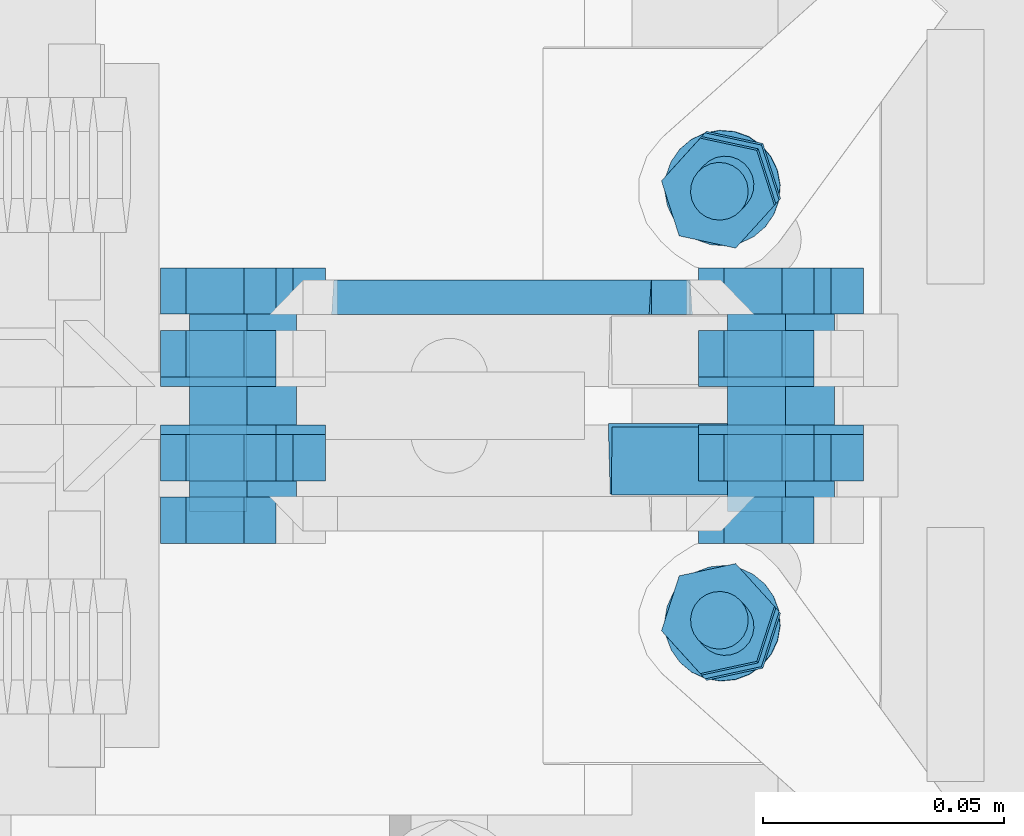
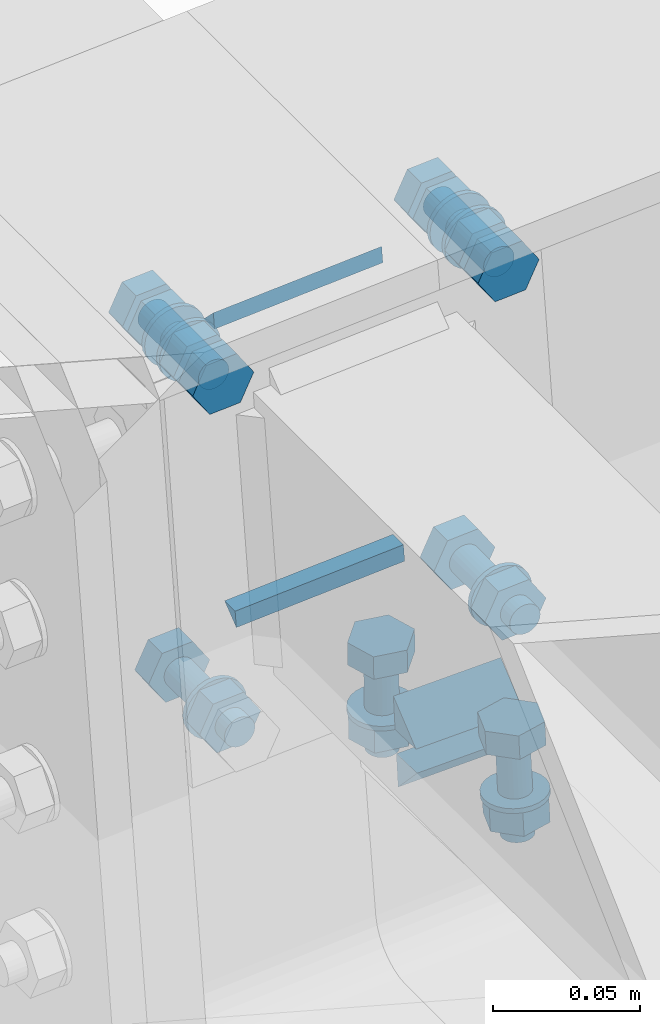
# One storey, part 57 of 72: 32 mechanical fasteners, 6 fasteners.
"""IFC4 building model written with IfcOpenShell, lengths in metres."""

from ifc_helpers import new_model, si_unit, frame, origin_with_axes, place, context, project, spatial, polyline, outline, extrude, type_object, element, save


model = new_model("IFC4")

# Units and contexts
model_context = context("Model", 3, precision=1e-05, world=origin_with_axes())
ifc_project = project(units=[si_unit("LENGTHUNIT", "METRE"), si_unit("AREAUNIT", "SQUARE_METRE"), si_unit("VOLUMEUNIT", "CUBIC_METRE"), si_unit("MASSUNIT", "GRAM", prefix="KILO"), si_unit("TIMEUNIT", "SECOND"), si_unit("PLANEANGLEUNIT", "RADIAN"), si_unit("SOLIDANGLEUNIT", "STERADIAN"), si_unit("THERMODYNAMICTEMPERATUREUNIT", "DEGREE_CELSIUS")], contexts=[model_context])

# Site, building, storey
placement_1 = place(None, origin_with_axes())
site = spatial("IfcSite", under=ifc_project, at=placement_1, Name="Italia", CompositionType="ELEMENT")
building = spatial("IfcBuilding", under=site, at=placement_1, Name="Pensilina", CompositionType="ELEMENT")
storey = spatial("IfcBuildingStorey", under=building, at=placement_1, Name="Storey 0", CompositionType="ELEMENT", Elevation=0.0)

# Mechanical fasteners
mechanical_fastener_type_1 = type_object("IfcMechanicalFastenerType", Name="Collegamento 0204_0203", PredefinedType="BOLT")
placement_2 = place(placement_1, origin_with_axes())
mechanical_fastener_1_placement = place(placement_2, origin_with_axes())
element("IfcMechanicalFastener", 1, at=mechanical_fastener_1_placement, inside=storey, type_object=mechanical_fastener_type_1, Name="Collegamento 0204_0203", NominalDiameter=0.0119999, context=model_context, shape_type="SweptSolid", body=[
    extrude(outline(polyline([(0.0, 0.0, 0.0), (-0.0119728, -0.000807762, 0.0), (-0.0186588, 0.00915694, 0.0), (-0.0133719, 0.0199296, 0.0), (-0.00139916, 0.0207374, 0.0), (0.00528681, 0.0107727, 0.0), (0.0, 0.0, 0.0)])), frame((0.966746, 15.821, 3.75867), z_axis=(0.0, -1.0, 0.0), x_axis=(1.0, 0.0, 0.0)), (0.0, 0.0, 1.0), 0.00959969),
])
mechanical_fastener_type_2 = type_object("IfcMechanicalFastenerType", Name="Collegamento 0204_0203", PredefinedType="BOLT")
mechanical_fastener_2_placement = place(placement_2, origin_with_axes())
element("IfcMechanicalFastener", 2, at=mechanical_fastener_2_placement, inside=storey, type_object=mechanical_fastener_type_2, Name="Collegamento 0204_0203", NominalDiameter=0.012, context=model_context, shape_type="SweptSolid", body=[
    extrude(outline(polyline([(0.0, 0.0, 0.0), (-0.000204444, -0.00155282, 0.0), (-0.000803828, -0.00300002, 0.0), (-0.00175732, -0.00424266, 0.0), (-0.00299996, -0.00519609, 0.0), (-0.00444704, -0.00579548, 0.0), (-0.00599998, -0.00600004, 0.0), (-0.00755292, -0.00579548, 0.0), (-0.009, -0.00519609, 0.0), (-0.0102426, -0.00424266, 0.0), (-0.0111961, -0.00300002, 0.0), (-0.0117955, -0.00155282, 0.0), (-0.012, 0.0, 0.0), (-0.0117955, 0.00155282, 0.0), (-0.0111961, 0.00300002, 0.0), (-0.0102426, 0.00424266, 0.0), (-0.009, 0.00519609, 0.0), (-0.00755292, 0.00579548, 0.0), (-0.00599998, 0.00600004, 0.0), (-0.00444704, 0.00579548, 0.0), (-0.00299996, 0.00519609, 0.0), (-0.00175732, 0.00424266, 0.0), (-0.000803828, 0.00300002, 0.0), (-0.000204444, 0.00155282, 0.0), (0.0, 0.0, 0.0)])), frame((0.96606, 15.862, 3.76864), z_axis=(0.0, -1.0, 0.0), x_axis=(1.0, 0.0, 0.0)), (0.0, 0.0, 1.0), 0.0410004),
])
mechanical_fastener_type_3 = type_object("IfcMechanicalFastenerType", Name="Collegamento 0204_0203", PredefinedType="BOLT")
mechanical_fastener_3_placement = place(placement_2, origin_with_axes())
element("IfcMechanicalFastener", 3, at=mechanical_fastener_3_placement, inside=storey, type_object=mechanical_fastener_type_3, Name="Collegamento 0204_0203", NominalDiameter=0.0119999, context=model_context, shape_type="SweptSolid", body=[
    extrude(outline(polyline([(0.0, 0.0, 0.0), (-0.0119728, -0.000807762, 0.0), (-0.0186588, 0.00915694, 0.0), (-0.0133719, 0.0199296, 0.0), (-0.00139916, 0.0207374, 0.0), (0.00528681, 0.0107727, 0.0), (0.0, 0.0, 0.0)])), frame((0.966746, 15.8556, 3.75867), z_axis=(0.0, -1.0, 0.0), x_axis=(1.0, 0.0, 0.0)), (0.0, 0.0, 1.0), 0.00959969),
])
mechanical_fastener_type_4 = type_object("IfcMechanicalFastenerType", Name="Collegamento 0204_0203", PredefinedType="BOLT")
mechanical_fastener_4_placement = place(placement_2, origin_with_axes())
element("IfcMechanicalFastener", 4, at=mechanical_fastener_4_placement, inside=storey, type_object=mechanical_fastener_type_4, Name="Collegamento 0204_0203", NominalDiameter=0.024, context=model_context, shape_type="SweptSolid", body=[
    extrude(outline(polyline([(0.0, 0.0, 0.0), (-0.000408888, -0.00310588, 0.0), (-0.00160772, -0.00600004, 0.0), (-0.00351477, -0.00848532, 0.0), (-0.00600004, -0.0103922, 0.0), (-0.00889421, -0.0115912, 0.0), (-0.012, -0.0120001, 0.0), (-0.0151058, -0.0115912, 0.0), (-0.018, -0.0103922, 0.0), (-0.0204853, -0.00848532, 0.0), (-0.0223923, -0.00600004, 0.0), (-0.0235912, -0.00310588, 0.0), (-0.024, 0.0, 0.0), (-0.0235912, 0.00310588, 0.0), (-0.0223923, 0.00600004, 0.0), (-0.0204853, 0.00848532, 0.0), (-0.018, 0.0103922, 0.0), (-0.0151058, 0.0115912, 0.0), (-0.012, 0.0120001, 0.0), (-0.00889421, 0.0115912, 0.0), (-0.00600004, 0.0103922, 0.0), (-0.00351477, 0.00848532, 0.0), (-0.00160772, 0.00600004, 0.0), (-0.000408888, 0.00310588, 0.0), (0.0, 0.0, 0.0)])), frame((0.97206, 15.846, 3.76864), z_axis=(0.0, -1.0, 0.0), x_axis=(1.0, 0.0, 0.0)), (0.0, 0.0, 1.0), 0.00199986),
])
mechanical_fastener_type_5 = type_object("IfcMechanicalFastenerType", Name="Collegamento 0204_0203", PredefinedType="BOLT")
mechanical_fastener_5_placement = place(placement_2, origin_with_axes())
element("IfcMechanicalFastener", 5, at=mechanical_fastener_5_placement, inside=storey, type_object=mechanical_fastener_type_5, Name="Collegamento 0204_0203", NominalDiameter=0.0119999, context=model_context, shape_type="SweptSolid", body=[
    extrude(outline(polyline([(0.0, 0.0, 0.0), (-0.0119728, -0.000807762, 0.0), (-0.0186589, 0.00915694, 0.0), (-0.0133721, 0.0199296, 0.0), (-0.00139928, 0.0207374, 0.0), (0.00528669, 0.0107727, 0.0), (0.0, 0.0, 0.0)])), frame((1.07849, 15.821, 3.76621), z_axis=(0.0, -1.0, 0.0), x_axis=(1.0, 0.0, 0.0)), (0.0, 0.0, 1.0), 0.00959969),
])
mechanical_fastener_type_6 = type_object("IfcMechanicalFastenerType", Name="Collegamento 0204_0203", PredefinedType="BOLT")
mechanical_fastener_6_placement = place(placement_2, origin_with_axes())
element("IfcMechanicalFastener", 6, at=mechanical_fastener_6_placement, inside=storey, type_object=mechanical_fastener_type_6, Name="Collegamento 0204_0203", NominalDiameter=0.012, context=model_context, shape_type="SweptSolid", body=[
    extrude(outline(polyline([(0.0, 0.0, 0.0), (-0.000204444, -0.00155282, 0.0), (-0.000803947, -0.00300002, 0.0), (-0.00175738, -0.00424266, 0.0), (-0.00300002, -0.00519609, 0.0), (-0.0044471, -0.00579548, 0.0), (-0.00600004, -0.00600004, 0.0), (-0.00755298, -0.00579548, 0.0), (-0.00900006, -0.00519609, 0.0), (-0.0102427, -0.00424266, 0.0), (-0.0111961, -0.00300002, 0.0), (-0.0117956, -0.00155282, 0.0), (-0.0120001, 0.0, 0.0), (-0.0117956, 0.00155282, 0.0), (-0.0111961, 0.00300002, 0.0), (-0.0102427, 0.00424266, 0.0), (-0.00900006, 0.00519609, 0.0), (-0.00755298, 0.00579548, 0.0), (-0.00600004, 0.00600004, 0.0), (-0.0044471, 0.00579548, 0.0), (-0.00300002, 0.00519609, 0.0), (-0.00175738, 0.00424266, 0.0), (-0.000803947, 0.00300002, 0.0), (-0.000204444, 0.00155282, 0.0), (0.0, 0.0, 0.0)])), frame((1.07781, 15.862, 3.77618), z_axis=(0.0, -1.0, 0.0), x_axis=(1.0, 0.0, 0.0)), (0.0, 0.0, 1.0), 0.0410004),
])
mechanical_fastener_type_7 = type_object("IfcMechanicalFastenerType", Name="Collegamento 0204_0203", PredefinedType="BOLT")
mechanical_fastener_7_placement = place(placement_2, origin_with_axes())
element("IfcMechanicalFastener", 7, at=mechanical_fastener_7_placement, inside=storey, type_object=mechanical_fastener_type_7, Name="Collegamento 0204_0203", NominalDiameter=0.0119999, context=model_context, shape_type="SweptSolid", body=[
    extrude(outline(polyline([(0.0, 0.0, 0.0), (-0.0119728, -0.000807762, 0.0), (-0.0186589, 0.00915694, 0.0), (-0.0133721, 0.0199296, 0.0), (-0.00139928, 0.0207374, 0.0), (0.00528669, 0.0107727, 0.0), (0.0, 0.0, 0.0)])), frame((1.07849, 15.8556, 3.76621), z_axis=(0.0, -1.0, 0.0), x_axis=(1.0, 0.0, 0.0)), (0.0, 0.0, 1.0), 0.00959969),
])
mechanical_fastener_type_8 = type_object("IfcMechanicalFastenerType", Name="Collegamento 0204_0203", PredefinedType="BOLT")
mechanical_fastener_8_placement = place(placement_2, origin_with_axes())
element("IfcMechanicalFastener", 8, at=mechanical_fastener_8_placement, inside=storey, type_object=mechanical_fastener_type_8, Name="Collegamento 0204_0203", NominalDiameter=0.024, context=model_context, shape_type="SweptSolid", body=[
    extrude(outline(polyline([(0.0, 0.0, 0.0), (-0.000408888, -0.00310588, 0.0), (-0.00160766, -0.00600004, 0.0), (-0.00351465, -0.00848532, 0.0), (-0.00599992, -0.0103922, 0.0), (-0.00889409, -0.0115912, 0.0), (-0.012, -0.0120001, 0.0), (-0.0151058, -0.0115912, 0.0), (-0.018, -0.0103922, 0.0), (-0.0204853, -0.00848532, 0.0), (-0.0223923, -0.00600004, 0.0), (-0.023591, -0.00310588, 0.0), (-0.0239999, 0.0, 0.0), (-0.023591, 0.00310588, 0.0), (-0.0223923, 0.00600004, 0.0), (-0.0204853, 0.00848532, 0.0), (-0.018, 0.0103922, 0.0), (-0.0151058, 0.0115912, 0.0), (-0.012, 0.0120001, 0.0), (-0.00889409, 0.0115912, 0.0), (-0.00599992, 0.0103922, 0.0), (-0.00351465, 0.00848532, 0.0), (-0.00160766, 0.00600004, 0.0), (-0.000408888, 0.00310588, 0.0), (0.0, 0.0, 0.0)])), frame((1.08381, 15.846, 3.77618), z_axis=(0.0, -1.0, 0.0), x_axis=(1.0, 0.0, 0.0)), (0.0, 0.0, 1.0), 0.00199986),
])

# Fasteners
fastener_type_1 = type_object("IfcFastenerType", Name="Collegamento 0204_0205", PredefinedType="WELD")
fastener_1_placement = place(placement_2, origin_with_axes())
element("IfcFastener", 9, at=fastener_1_placement, inside=storey, type_object=fastener_type_1, Name="Collegamento 0204_0205", context=model_context, shape_type="SweptSolid", body=[
    extrude(outline(polyline([(0.0, 0.0, 0.0), (0.00717354, -0.00695801, 0.0), (0.0, -0.00695801, 0.0), (0.0, 0.0, 0.0)])), frame((0.98357, 15.8589, 3.76111), z_axis=(0.997731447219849, 0.0, 0.06731989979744), x_axis=(0.0, 1.0, 0.0)), (0.0, 0.0, 1.0), 0.0661),
])
fastener_type_2 = type_object("IfcFastenerType", Name="Collegamento 0204_0205", PredefinedType="WELD")
fastener_2_placement = place(placement_2, origin_with_axes())
element("IfcFastener", 10, at=fastener_2_placement, inside=storey, type_object=fastener_type_2, Name="Collegamento 0204_0205", context=model_context, shape_type="SweptSolid", body=[
    extrude(outline(polyline([(0.0, 0.0, 0.0), (-0.00717354, 0.00695801, 0.0), (0.0, 0.00695801, 0.0), (0.0, 0.0, 0.0)])), frame((1.05853, 15.8589, 3.63205), z_axis=(-0.997731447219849, 0.0, -0.067319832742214), x_axis=(0.0, -1.0, 0.0)), (0.0, 0.0, 1.0), 0.0661),
])
fastener_type_3 = type_object("IfcFastenerType", Name="Collegamento 0204_0205", PredefinedType="WELD")
fastener_3_placement = place(placement_2, origin_with_axes())
element("IfcFastener", 11, at=fastener_3_placement, inside=storey, type_object=fastener_type_3, Name="Collegamento 0204_0205", context=model_context, shape_type="SweptSolid", body=[
    extrude(outline(polyline([(0.0, 0.0, 0.0), (0.00717354, -0.00695801, 0.0), (0.0, -0.00695801, 0.0), (0.0, 0.0, 0.0)])), frame((0.98357, 15.8589, 3.76111), z_axis=(0.997731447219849, 0.0, 0.06731989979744), x_axis=(0.0, 1.0, 0.0)), (0.0, 0.0, 1.0), 0.0661),
])
fastener_type_4 = type_object("IfcFastenerType", Name="Collegamento 0204_0205", PredefinedType="WELD")
fastener_4_placement = place(placement_2, origin_with_axes())
element("IfcFastener", 12, at=fastener_4_placement, inside=storey, type_object=fastener_type_4, Name="Collegamento 0204_0205", context=model_context, shape_type="SweptSolid", body=[
    extrude(outline(polyline([(0.0, 0.0, 0.0), (-0.00717354, 0.00695801, 0.0), (0.0, 0.00695801, 0.0), (0.0, 0.0, 0.0)])), frame((1.05853, 15.8589, 3.63205), z_axis=(-0.997731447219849, 0.0, -0.067319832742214), x_axis=(0.0, -1.0, 0.0)), (0.0, 0.0, 1.0), 0.0661),
])

# Mechanical fasteners
mechanical_fastener_type_9 = type_object("IfcMechanicalFastenerType", Name="Collegamento 0204_0205", PredefinedType="BOLT")
mechanical_fastener_9_placement = place(placement_2, origin_with_axes())
element("IfcMechanicalFastener", 13, at=mechanical_fastener_9_placement, inside=storey, type_object=mechanical_fastener_type_9, Name="Collegamento 0204_0205", NominalDiameter=0.0119999, context=model_context, shape_type="SweptSolid", body=[
    extrude(outline(polyline([(0.0, 0.0, 0.0), (-0.0119728, 0.000807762, 0.0), (-0.0172595, 0.0115805, 0.0), (-0.0105735, 0.0215452, 0.0), (0.00139928, 0.0207374, 0.0), (0.00668609, 0.0099647, 0.0), (0.0, 0.0, 0.0)])), frame((1.07675, 15.859, 3.61375), z_axis=(0.0, 1.0, 0.0), x_axis=(-1.0, 0.0, 0.0)), (0.0, 0.0, 1.0), 0.00959969),
])
mechanical_fastener_type_10 = type_object("IfcMechanicalFastenerType", Name="Collegamento 0204_0205", PredefinedType="BOLT")
mechanical_fastener_10_placement = place(placement_2, origin_with_axes())
element("IfcMechanicalFastener", 14, at=mechanical_fastener_10_placement, inside=storey, type_object=mechanical_fastener_type_10, Name="Collegamento 0204_0205", NominalDiameter=0.012, context=model_context, shape_type="SweptSolid", body=[
    extrude(outline(polyline([(0.0, 0.0, 0.0), (-0.000204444, -0.00155282, 0.0), (-0.000803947, -0.00300002, 0.0), (-0.00175738, -0.00424266, 0.0), (-0.00300002, -0.00519609, 0.0), (-0.0044471, -0.00579548, 0.0), (-0.00600004, -0.00600004, 0.0), (-0.00755298, -0.00579548, 0.0), (-0.00900006, -0.00519609, 0.0), (-0.0102427, -0.00424266, 0.0), (-0.0111961, -0.00300002, 0.0), (-0.0117956, -0.00155282, 0.0), (-0.0120001, 0.0, 0.0), (-0.0117956, 0.00155282, 0.0), (-0.0111961, 0.00300002, 0.0), (-0.0102427, 0.00424266, 0.0), (-0.00900006, 0.00519609, 0.0), (-0.00755298, 0.00579548, 0.0), (-0.00600004, 0.00600004, 0.0), (-0.0044471, 0.00579548, 0.0), (-0.00300002, 0.00519609, 0.0), (-0.00175738, 0.00424266, 0.0), (-0.000803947, 0.00300002, 0.0), (-0.000204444, 0.00155282, 0.0), (0.0, 0.0, 0.0)])), frame((1.07604, 15.818, 3.62452), z_axis=(0.0, 1.0, 0.0), x_axis=(-1.0, 0.0, 0.0)), (0.0, 0.0, 1.0), 0.0410004),
])
mechanical_fastener_type_11 = type_object("IfcMechanicalFastenerType", Name="Collegamento 0204_0205", PredefinedType="BOLT")
mechanical_fastener_11_placement = place(placement_2, origin_with_axes())
element("IfcMechanicalFastener", 15, at=mechanical_fastener_11_placement, inside=storey, type_object=mechanical_fastener_type_11, Name="Collegamento 0204_0205", NominalDiameter=0.0119999, context=model_context, shape_type="SweptSolid", body=[
    extrude(outline(polyline([(0.0, 0.0, 0.0), (-0.0119728, 0.000807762, 0.0), (-0.0172595, 0.0115805, 0.0), (-0.0105735, 0.0215452, 0.0), (0.00139928, 0.0207374, 0.0), (0.00668609, 0.0099647, 0.0), (0.0, 0.0, 0.0)])), frame((1.07675, 15.8244, 3.61375), z_axis=(0.0, 1.0, 0.0), x_axis=(-1.0, 0.0, 0.0)), (0.0, 0.0, 1.0), 0.00959969),
])
mechanical_fastener_type_12 = type_object("IfcMechanicalFastenerType", Name="Collegamento 0204_0205", PredefinedType="BOLT")
mechanical_fastener_12_placement = place(placement_2, origin_with_axes())
element("IfcMechanicalFastener", 16, at=mechanical_fastener_12_placement, inside=storey, type_object=mechanical_fastener_type_12, Name="Collegamento 0204_0205", NominalDiameter=0.024, context=model_context, shape_type="SweptSolid", body=[
    extrude(outline(polyline([(0.0, 0.0, 0.0), (-0.000408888, -0.00310588, 0.0), (-0.00160766, -0.00600004, 0.0), (-0.00351465, -0.00848532, 0.0), (-0.00599992, -0.0103922, 0.0), (-0.00889409, -0.0115912, 0.0), (-0.012, -0.0120001, 0.0), (-0.0151058, -0.0115912, 0.0), (-0.018, -0.0103922, 0.0), (-0.0204853, -0.00848532, 0.0), (-0.0223923, -0.00600004, 0.0), (-0.023591, -0.00310588, 0.0), (-0.0239999, 0.0, 0.0), (-0.023591, 0.00310588, 0.0), (-0.0223923, 0.00600004, 0.0), (-0.0204853, 0.00848532, 0.0), (-0.018, 0.0103922, 0.0), (-0.0151058, 0.0115912, 0.0), (-0.012, 0.0120001, 0.0), (-0.00889409, 0.0115912, 0.0), (-0.00599992, 0.0103922, 0.0), (-0.00351465, 0.00848532, 0.0), (-0.00160766, 0.00600004, 0.0), (-0.000408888, 0.00310588, 0.0), (0.0, 0.0, 0.0)])), frame((1.07004, 15.834, 3.62452), z_axis=(0.0, 1.0, 0.0), x_axis=(-1.0, 0.0, 0.0)), (0.0, 0.0, 1.0), 0.00199986),
])
mechanical_fastener_type_13 = type_object("IfcMechanicalFastenerType", Name="Collegamento 0204_0205", PredefinedType="BOLT")
mechanical_fastener_13_placement = place(placement_2, origin_with_axes())
element("IfcMechanicalFastener", 17, at=mechanical_fastener_13_placement, inside=storey, type_object=mechanical_fastener_type_13, Name="Collegamento 0204_0205", NominalDiameter=0.0119999, context=model_context, shape_type="SweptSolid", body=[
    extrude(outline(polyline([(0.0, 0.0, 0.0), (-0.0119728, 0.000807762, 0.0), (-0.0172596, 0.0115805, 0.0), (-0.0105736, 0.0215452, 0.0), (0.00139916, 0.0207374, 0.0), (0.00668597, 0.0099647, 0.0), (0.0, 0.0, 0.0)])), frame((0.965006, 15.859, 3.60621), z_axis=(0.0, 1.0, 0.0), x_axis=(-1.0, 0.0, 0.0)), (0.0, 0.0, 1.0), 0.00959969),
])
mechanical_fastener_type_14 = type_object("IfcMechanicalFastenerType", Name="Collegamento 0204_0205", PredefinedType="BOLT")
mechanical_fastener_14_placement = place(placement_2, origin_with_axes())
element("IfcMechanicalFastener", 18, at=mechanical_fastener_14_placement, inside=storey, type_object=mechanical_fastener_type_14, Name="Collegamento 0204_0205", NominalDiameter=0.012, context=model_context, shape_type="SweptSolid", body=[
    extrude(outline(polyline([(0.0, 0.0, 0.0), (-0.000204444, -0.00155282, 0.0), (-0.000803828, -0.00300002, 0.0), (-0.00175732, -0.00424266, 0.0), (-0.00299996, -0.00519609, 0.0), (-0.00444704, -0.00579548, 0.0), (-0.00599998, -0.00600004, 0.0), (-0.00755292, -0.00579548, 0.0), (-0.009, -0.00519609, 0.0), (-0.0102426, -0.00424266, 0.0), (-0.0111961, -0.00300002, 0.0), (-0.0117955, -0.00155282, 0.0), (-0.012, 0.0, 0.0), (-0.0117955, 0.00155282, 0.0), (-0.0111961, 0.00300002, 0.0), (-0.0102426, 0.00424266, 0.0), (-0.009, 0.00519609, 0.0), (-0.00755292, 0.00579548, 0.0), (-0.00599998, 0.00600004, 0.0), (-0.00444704, 0.00579548, 0.0), (-0.00299996, 0.00519609, 0.0), (-0.00175732, 0.00424266, 0.0), (-0.000803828, 0.00300002, 0.0), (-0.000204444, 0.00155282, 0.0), (0.0, 0.0, 0.0)])), frame((0.964293, 15.818, 3.61698), z_axis=(0.0, 1.0, 0.0), x_axis=(-1.0, 0.0, 0.0)), (0.0, 0.0, 1.0), 0.0410004),
])
mechanical_fastener_type_15 = type_object("IfcMechanicalFastenerType", Name="Collegamento 0204_0205", PredefinedType="BOLT")
mechanical_fastener_15_placement = place(placement_2, origin_with_axes())
element("IfcMechanicalFastener", 19, at=mechanical_fastener_15_placement, inside=storey, type_object=mechanical_fastener_type_15, Name="Collegamento 0204_0205", NominalDiameter=0.0119999, context=model_context, shape_type="SweptSolid", body=[
    extrude(outline(polyline([(0.0, 0.0, 0.0), (-0.0119728, 0.000807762, 0.0), (-0.0172596, 0.0115805, 0.0), (-0.0105736, 0.0215452, 0.0), (0.00139916, 0.0207374, 0.0), (0.00668597, 0.0099647, 0.0), (0.0, 0.0, 0.0)])), frame((0.965006, 15.8244, 3.60621), z_axis=(0.0, 1.0, 0.0), x_axis=(-1.0, 0.0, 0.0)), (0.0, 0.0, 1.0), 0.00959969),
])
mechanical_fastener_type_16 = type_object("IfcMechanicalFastenerType", Name="Collegamento 0204_0205", PredefinedType="BOLT")
mechanical_fastener_16_placement = place(placement_2, origin_with_axes())
element("IfcMechanicalFastener", 20, at=mechanical_fastener_16_placement, inside=storey, type_object=mechanical_fastener_type_16, Name="Collegamento 0204_0205", NominalDiameter=0.024, context=model_context, shape_type="SweptSolid", body=[
    extrude(outline(polyline([(0.0, 0.0, 0.0), (-0.000408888, -0.00310588, 0.0), (-0.00160772, -0.00600004, 0.0), (-0.00351477, -0.00848532, 0.0), (-0.00600004, -0.0103922, 0.0), (-0.00889421, -0.0115912, 0.0), (-0.012, -0.0120001, 0.0), (-0.0151058, -0.0115912, 0.0), (-0.018, -0.0103922, 0.0), (-0.0204853, -0.00848532, 0.0), (-0.0223923, -0.00600004, 0.0), (-0.0235912, -0.00310588, 0.0), (-0.024, 0.0, 0.0), (-0.0235912, 0.00310588, 0.0), (-0.0223923, 0.00600004, 0.0), (-0.0204853, 0.00848532, 0.0), (-0.018, 0.0103922, 0.0), (-0.0151058, 0.0115912, 0.0), (-0.012, 0.0120001, 0.0), (-0.00889421, 0.0115912, 0.0), (-0.00600004, 0.0103922, 0.0), (-0.00351477, 0.00848532, 0.0), (-0.00160772, 0.00600004, 0.0), (-0.000408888, 0.00310588, 0.0), (0.0, 0.0, 0.0)])), frame((0.958293, 15.834, 3.61698), z_axis=(0.0, 1.0, 0.0), x_axis=(-1.0, 0.0, 0.0)), (0.0, 0.0, 1.0), 0.00199986),
])
mechanical_fastener_type_17 = type_object("IfcMechanicalFastenerType", Name="Collegamento 0204_0205", PredefinedType="BOLT")
mechanical_fastener_17_placement = place(placement_2, origin_with_axes())
element("IfcMechanicalFastener", 21, at=mechanical_fastener_17_placement, inside=storey, type_object=mechanical_fastener_type_17, Name="Collegamento 0204_0205", NominalDiameter=0.0119999, context=model_context, shape_type="SweptSolid", body=[
    extrude(outline(polyline([(0.0, 0.0, 0.0), (-0.0119728, 0.000807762, 0.0), (-0.0172595, 0.0115805, 0.0), (-0.0105735, 0.0215452, 0.0), (0.00139928, 0.0207374, 0.0), (0.00668609, 0.0099647, 0.0), (0.0, 0.0, 0.0)])), frame((1.06652, 15.859, 3.7654), z_axis=(0.0, 1.0, 0.0), x_axis=(-1.0, 0.0, 0.0)), (0.0, 0.0, 1.0), 0.00959969),
])
mechanical_fastener_type_18 = type_object("IfcMechanicalFastenerType", Name="Collegamento 0204_0205", PredefinedType="BOLT")
mechanical_fastener_18_placement = place(placement_2, origin_with_axes())
element("IfcMechanicalFastener", 22, at=mechanical_fastener_18_placement, inside=storey, type_object=mechanical_fastener_type_18, Name="Collegamento 0204_0205", NominalDiameter=0.012, context=model_context, shape_type="SweptSolid", body=[
    extrude(outline(polyline([(0.0, 0.0, 0.0), (-0.000204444, -0.00155282, 0.0), (-0.000803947, -0.00300002, 0.0), (-0.00175738, -0.00424266, 0.0), (-0.00300002, -0.00519609, 0.0), (-0.0044471, -0.00579548, 0.0), (-0.00600004, -0.00600004, 0.0), (-0.00755298, -0.00579548, 0.0), (-0.00900006, -0.00519609, 0.0), (-0.0102427, -0.00424266, 0.0), (-0.0111961, -0.00300002, 0.0), (-0.0117956, -0.00155282, 0.0), (-0.0120001, 0.0, 0.0), (-0.0117956, 0.00155282, 0.0), (-0.0111961, 0.00300002, 0.0), (-0.0102427, 0.00424266, 0.0), (-0.00900006, 0.00519609, 0.0), (-0.00755298, 0.00579548, 0.0), (-0.00600004, 0.00600004, 0.0), (-0.0044471, 0.00579548, 0.0), (-0.00300002, 0.00519609, 0.0), (-0.00175738, 0.00424266, 0.0), (-0.000803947, 0.00300002, 0.0), (-0.000204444, 0.00155282, 0.0), (0.0, 0.0, 0.0)])), frame((1.06581, 15.818, 3.77618), z_axis=(0.0, 1.0, 0.0), x_axis=(-1.0, 0.0, 0.0)), (0.0, 0.0, 1.0), 0.0410004),
])
mechanical_fastener_type_19 = type_object("IfcMechanicalFastenerType", Name="Collegamento 0204_0205", PredefinedType="BOLT")
mechanical_fastener_19_placement = place(placement_2, origin_with_axes())
element("IfcMechanicalFastener", 23, at=mechanical_fastener_19_placement, inside=storey, type_object=mechanical_fastener_type_19, Name="Collegamento 0204_0205", NominalDiameter=0.0119999, context=model_context, shape_type="SweptSolid", body=[
    extrude(outline(polyline([(0.0, 0.0, 0.0), (-0.0119728, 0.000807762, 0.0), (-0.0172595, 0.0115805, 0.0), (-0.0105735, 0.0215452, 0.0), (0.00139928, 0.0207374, 0.0), (0.00668609, 0.0099647, 0.0), (0.0, 0.0, 0.0)])), frame((1.06652, 15.8244, 3.7654), z_axis=(0.0, 1.0, 0.0), x_axis=(-1.0, 0.0, 0.0)), (0.0, 0.0, 1.0), 0.00959969),
])
mechanical_fastener_type_20 = type_object("IfcMechanicalFastenerType", Name="Collegamento 0204_0205", PredefinedType="BOLT")
mechanical_fastener_20_placement = place(placement_2, origin_with_axes())
element("IfcMechanicalFastener", 24, at=mechanical_fastener_20_placement, inside=storey, type_object=mechanical_fastener_type_20, Name="Collegamento 0204_0205", NominalDiameter=0.024, context=model_context, shape_type="SweptSolid", body=[
    extrude(outline(polyline([(0.0, 0.0, 0.0), (-0.000408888, -0.00310588, 0.0), (-0.00160766, -0.00600004, 0.0), (-0.00351465, -0.00848532, 0.0), (-0.00599992, -0.0103922, 0.0), (-0.00889409, -0.0115912, 0.0), (-0.012, -0.0120001, 0.0), (-0.0151058, -0.0115912, 0.0), (-0.018, -0.0103922, 0.0), (-0.0204853, -0.00848532, 0.0), (-0.0223923, -0.00600004, 0.0), (-0.023591, -0.00310588, 0.0), (-0.0239999, 0.0, 0.0), (-0.023591, 0.00310588, 0.0), (-0.0223923, 0.00600004, 0.0), (-0.0204853, 0.00848532, 0.0), (-0.018, 0.0103922, 0.0), (-0.0151058, 0.0115912, 0.0), (-0.012, 0.0120001, 0.0), (-0.00889409, 0.0115912, 0.0), (-0.00599992, 0.0103922, 0.0), (-0.00351465, 0.00848532, 0.0), (-0.00160766, 0.00600004, 0.0), (-0.000408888, 0.00310588, 0.0), (0.0, 0.0, 0.0)])), frame((1.05981, 15.834, 3.77618), z_axis=(0.0, 1.0, 0.0), x_axis=(-1.0, 0.0, 0.0)), (0.0, 0.0, 1.0), 0.00199986),
])
mechanical_fastener_type_21 = type_object("IfcMechanicalFastenerType", Name="Collegamento 0204_0205", PredefinedType="BOLT")
mechanical_fastener_21_placement = place(placement_2, origin_with_axes())
element("IfcMechanicalFastener", 25, at=mechanical_fastener_21_placement, inside=storey, type_object=mechanical_fastener_type_21, Name="Collegamento 0204_0205", NominalDiameter=0.0119999, context=model_context, shape_type="SweptSolid", body=[
    extrude(outline(polyline([(0.0, 0.0, 0.0), (-0.0119728, 0.000807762, 0.0), (-0.0172596, 0.0115805, 0.0), (-0.0105736, 0.0215452, 0.0), (0.00139916, 0.0207374, 0.0), (0.00668597, 0.0099647, 0.0), (0.0, 0.0, 0.0)])), frame((0.954773, 15.859, 3.75786), z_axis=(0.0, 1.0, 0.0), x_axis=(-1.0, 0.0, 0.0)), (0.0, 0.0, 1.0), 0.00959969),
])
mechanical_fastener_type_22 = type_object("IfcMechanicalFastenerType", Name="Collegamento 0204_0205", PredefinedType="BOLT")
mechanical_fastener_22_placement = place(placement_2, origin_with_axes())
element("IfcMechanicalFastener", 26, at=mechanical_fastener_22_placement, inside=storey, type_object=mechanical_fastener_type_22, Name="Collegamento 0204_0205", NominalDiameter=0.012, context=model_context, shape_type="SweptSolid", body=[
    extrude(outline(polyline([(0.0, 0.0, 0.0), (-0.000204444, -0.00155282, 0.0), (-0.000803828, -0.00300002, 0.0), (-0.00175732, -0.00424266, 0.0), (-0.00299996, -0.00519609, 0.0), (-0.00444704, -0.00579548, 0.0), (-0.00599998, -0.00600004, 0.0), (-0.00755292, -0.00579548, 0.0), (-0.009, -0.00519609, 0.0), (-0.0102426, -0.00424266, 0.0), (-0.0111961, -0.00300002, 0.0), (-0.0117955, -0.00155282, 0.0), (-0.012, 0.0, 0.0), (-0.0117955, 0.00155282, 0.0), (-0.0111961, 0.00300002, 0.0), (-0.0102426, 0.00424266, 0.0), (-0.009, 0.00519609, 0.0), (-0.00755292, 0.00579548, 0.0), (-0.00599998, 0.00600004, 0.0), (-0.00444704, 0.00579548, 0.0), (-0.00299996, 0.00519609, 0.0), (-0.00175732, 0.00424266, 0.0), (-0.000803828, 0.00300002, 0.0), (-0.000204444, 0.00155282, 0.0), (0.0, 0.0, 0.0)])), frame((0.95406, 15.818, 3.76864), z_axis=(0.0, 1.0, 0.0), x_axis=(-1.0, 0.0, 0.0)), (0.0, 0.0, 1.0), 0.0410004),
])
mechanical_fastener_type_23 = type_object("IfcMechanicalFastenerType", Name="Collegamento 0204_0205", PredefinedType="BOLT")
mechanical_fastener_23_placement = place(placement_2, origin_with_axes())
element("IfcMechanicalFastener", 27, at=mechanical_fastener_23_placement, inside=storey, type_object=mechanical_fastener_type_23, Name="Collegamento 0204_0205", NominalDiameter=0.0119999, context=model_context, shape_type="SweptSolid", body=[
    extrude(outline(polyline([(0.0, 0.0, 0.0), (-0.0119728, 0.000807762, 0.0), (-0.0172596, 0.0115805, 0.0), (-0.0105736, 0.0215452, 0.0), (0.00139916, 0.0207374, 0.0), (0.00668597, 0.0099647, 0.0), (0.0, 0.0, 0.0)])), frame((0.954773, 15.8244, 3.75786), z_axis=(0.0, 1.0, 0.0), x_axis=(-1.0, 0.0, 0.0)), (0.0, 0.0, 1.0), 0.00959969),
])
mechanical_fastener_type_24 = type_object("IfcMechanicalFastenerType", Name="Collegamento 0204_0205", PredefinedType="BOLT")
mechanical_fastener_24_placement = place(placement_2, origin_with_axes())
element("IfcMechanicalFastener", 28, at=mechanical_fastener_24_placement, inside=storey, type_object=mechanical_fastener_type_24, Name="Collegamento 0204_0205", NominalDiameter=0.024, context=model_context, shape_type="SweptSolid", body=[
    extrude(outline(polyline([(0.0, 0.0, 0.0), (-0.000408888, -0.00310588, 0.0), (-0.00160772, -0.00600004, 0.0), (-0.00351477, -0.00848532, 0.0), (-0.00600004, -0.0103922, 0.0), (-0.00889421, -0.0115912, 0.0), (-0.012, -0.0120001, 0.0), (-0.0151058, -0.0115912, 0.0), (-0.018, -0.0103922, 0.0), (-0.0204853, -0.00848532, 0.0), (-0.0223923, -0.00600004, 0.0), (-0.0235912, -0.00310588, 0.0), (-0.024, 0.0, 0.0), (-0.0235912, 0.00310588, 0.0), (-0.0223923, 0.00600004, 0.0), (-0.0204853, 0.00848532, 0.0), (-0.018, 0.0103922, 0.0), (-0.0151058, 0.0115912, 0.0), (-0.012, 0.0120001, 0.0), (-0.00889421, 0.0115912, 0.0), (-0.00600004, 0.0103922, 0.0), (-0.00351477, 0.00848532, 0.0), (-0.00160772, 0.00600004, 0.0), (-0.000408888, 0.00310588, 0.0), (0.0, 0.0, 0.0)])), frame((0.94806, 15.834, 3.76864), z_axis=(0.0, 1.0, 0.0), x_axis=(-1.0, 0.0, 0.0)), (0.0, 0.0, 1.0), 0.00199986),
])
mechanical_fastener_type_25 = type_object("IfcMechanicalFastenerType", Name="Collegamento 0204_0603", PredefinedType="BOLT")
mechanical_fastener_25_placement = place(placement_2, origin_with_axes())
element("IfcMechanicalFastener", 29, at=mechanical_fastener_25_placement, inside=storey, type_object=mechanical_fastener_type_25, Name="Collegamento 0204_0603", NominalDiameter=0.0119996, context=model_context, shape_type="SweptSolid", body=[
    extrude(outline(polyline([(0.0, 0.0, 0.0), (-1.52588e-05, -0.0119991, 0.0), (0.0103693, -0.018013, 0.0), (0.0207691, -0.0120258, 0.0), (0.0207844, -2.57492e-05, 0.0), (0.0103998, 0.00598812, 0.0), (0.0, 0.0, 0.0)])), frame((1.07585, 15.798, 3.59465), z_axis=(-0.0309824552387, 0.034074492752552, 0.998938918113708), x_axis=(-0.739879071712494, -0.672739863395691, 0.0)), (0.0, 0.0, 1.0), 0.00959986),
])
mechanical_fastener_type_26 = type_object("IfcMechanicalFastenerType", Name="Collegamento 0204_0603", PredefinedType="BOLT")
mechanical_fastener_26_placement = place(placement_2, origin_with_axes())
element("IfcMechanicalFastener", 30, at=mechanical_fastener_26_placement, inside=storey, type_object=mechanical_fastener_type_26, Name="Collegamento 0204_0603", NominalDiameter=0.012, context=model_context, shape_type="SweptSolid", body=[
    extrude(outline(polyline([(0.0, 0.0, 0.0), (-0.00020504, -0.00155258, 0.0), (-0.000803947, -0.00299931, 0.0), (-0.00175667, -0.00424194, 0.0), (-0.00300026, -0.00519562, 0.0), (-0.00444698, -0.00579453, 0.0), (-0.00599957, -0.00599861, 0.0), (-0.0075531, -0.00579453, 0.0), (-0.00899982, -0.00519562, 0.0), (-0.0102425, -0.00424194, 0.0), (-0.0111961, -0.00299931, 0.0), (-0.011795, -0.00155163, 0.0), (-0.0120001, 9.53674e-07, 0.0), (-0.011795, 0.00155449, 0.0), (-0.0111961, 0.00300121, 0.0), (-0.0102425, 0.0042429, 0.0), (-0.00899982, 0.00519753, 0.0), (-0.0075531, 0.00579643, 0.0), (-0.00600052, 0.00600052, 0.0), (-0.00444698, 0.00579643, 0.0), (-0.00300026, 0.00519657, 0.0), (-0.00175762, 0.0042429, 0.0), (-0.000803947, 0.00300121, 0.0), (-0.00020504, 0.00155354, 0.0), (0.0, 0.0, 0.0)])), frame((1.06086, 15.7901, 3.55641), z_axis=(-0.03097559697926, 0.034156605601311, 0.998936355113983), x_axis=(-0.740758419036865, -0.67177152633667, 0.0)), (0.0, 0.0, 1.0), 0.038),
])
mechanical_fastener_type_27 = type_object("IfcMechanicalFastenerType", Name="Collegamento 0204_0603", PredefinedType="BOLT")
mechanical_fastener_27_placement = place(placement_2, origin_with_axes())
element("IfcMechanicalFastener", 31, at=mechanical_fastener_27_placement, inside=storey, type_object=mechanical_fastener_type_27, Name="Collegamento 0204_0603", NominalDiameter=0.0119996, context=model_context, shape_type="SweptSolid", body=[
    extrude(outline(polyline([(0.0, 0.0, 0.0), (5.72205e-06, -0.0120001, 0.0), (0.0103998, -0.0179958, 0.0), (0.0207891, -0.0119925, 0.0), (0.0207853, 7.62939e-06, 0.0), (0.0103903, 0.00600338, 0.0), (0.0, 0.0, 0.0)])), frame((1.07683, 15.7969, 3.56308), z_axis=(-0.030969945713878, 0.034173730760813, 0.99893593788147), x_axis=(-0.740986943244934, -0.671519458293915, 0.0)), (0.0, 0.0, 1.0), 0.00959989),
])
mechanical_fastener_type_28 = type_object("IfcMechanicalFastenerType", Name="Collegamento 0204_0603", PredefinedType="BOLT")
mechanical_fastener_28_placement = place(placement_2, origin_with_axes())
element("IfcMechanicalFastener", 32, at=mechanical_fastener_28_placement, inside=storey, type_object=mechanical_fastener_type_28, Name="Collegamento 0204_0603", NominalDiameter=0.024, context=model_context, shape_type="SweptSolid", body=[
    extrude(outline(polyline([(0.0, 0.0, 0.0), (-0.000409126, -0.00310612, 0.0), (-0.00160789, -0.00599957, 0.0), (-0.00351429, -0.00848484, 0.0), (-0.00599957, -0.0103922, 0.0), (-0.00889397, -0.011591, 0.0), (-0.0120001, -0.0120001, 0.0), (-0.0151052, -0.011591, 0.0), (-0.0179996, -0.0103922, 0.0), (-0.0204859, -0.00848579, 0.0), (-0.0223923, -0.00600052, 0.0), (-0.023591, -0.00310516, 0.0), (-0.0240002, 0.0, 0.0), (-0.023591, 0.00310612, 0.0), (-0.0223923, 0.00600052, 0.0), (-0.0204849, 0.00848579, 0.0), (-0.0179996, 0.0103922, 0.0), (-0.0151062, 0.011591, 0.0), (-0.0120001, 0.0120001, 0.0), (-0.00889397, 0.011591, 0.0), (-0.00599957, 0.0103922, 0.0), (-0.00351429, 0.00848579, 0.0), (-0.00160694, 0.00600052, 0.0), (-0.000409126, 0.00310612, 0.0), (0.0, 0.0, 0.0)])), frame((1.05601, 15.7866, 3.5724), z_axis=(-0.030994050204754, 0.033378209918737, 0.998962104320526), x_axis=(-0.732793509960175, -0.680451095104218, 0.0)), (0.0, 0.0, 1.0), 0.00200002),
])

# Fasteners
fastener_type_5 = type_object("IfcFastenerType", Name="Collegamento 0204_0603", PredefinedType="WELD")
fastener_5_placement = place(placement_2, origin_with_axes())
element("IfcFastener", 33, at=fastener_5_placement, inside=storey, type_object=fastener_type_5, Name="Collegamento 0204_0603", context=model_context, shape_type="SweptSolid", body=[
    extrude(outline(polyline([(0.0, 0.0, 0.0), (-0.0136957, 0.0142243, 0.0), (0.000469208, 0.0137403, 0.0), (0.0, 0.0, 0.0)])), frame((1.0422, 15.8351, 3.55861), z_axis=(0.99951958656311, 0.0, 0.030993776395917), x_axis=(0.0, 1.0, 0.0)), (0.0, 0.0, 1.0), 0.0421009),
])
fastener_type_6 = type_object("IfcFastenerType", Name="Collegamento 0204_0603", PredefinedType="WELD")
fastener_6_placement = place(placement_2, origin_with_axes())
element("IfcFastener", 34, at=fastener_6_placement, inside=storey, type_object=fastener_type_6, Name="Collegamento 0204_0603", context=model_context, shape_type="SweptSolid", body=[
    extrude(outline(polyline([(0.0, 0.0, 0.0), (0.0146351, -0.0132561, 0.0), (0.000469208, -0.0137401, 0.0), (0.0, 0.0, 0.0)])), frame((1.08312, 15.8363, 3.59727), z_axis=(-0.999519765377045, 0.0, -0.030988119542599), x_axis=(0.0, -1.0, 0.0)), (0.0, 0.0, 1.0), 0.0421009),
])

# Mechanical fasteners
mechanical_fastener_type_29 = type_object("IfcMechanicalFastenerType", Name="Collegamento 0204_0605", PredefinedType="BOLT")
mechanical_fastener_29_placement = place(placement_2, origin_with_axes())
element("IfcMechanicalFastener", 35, at=mechanical_fastener_29_placement, inside=storey, type_object=mechanical_fastener_type_29, Name="Collegamento 0204_0605", NominalDiameter=0.0119996, context=model_context, shape_type="SweptSolid", body=[
    extrude(outline(polyline([(0.0, 0.0, 0.0), (-4.76837e-06, -0.0119991, 0.0), (0.0103855, -0.0180035, 0.0), (0.0207806, -0.0120077, 0.0), (0.0207844, -7.62939e-06, 0.0), (0.0103951, 0.0059967, 0.0), (0.0, 0.0, 0.0)])), frame((1.06045, 15.8959, 3.57463), z_axis=(-0.030969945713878, -0.034173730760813, 0.99893593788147), x_axis=(0.740986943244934, -0.671519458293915, 0.0)), (0.0, 0.0, 1.0), 0.00959989),
])
mechanical_fastener_type_30 = type_object("IfcMechanicalFastenerType", Name="Collegamento 0204_0605", PredefinedType="BOLT")
mechanical_fastener_30_placement = place(placement_2, origin_with_axes())
element("IfcMechanicalFastener", 36, at=mechanical_fastener_30_placement, inside=storey, type_object=mechanical_fastener_type_30, Name="Collegamento 0204_0605", NominalDiameter=0.012, context=model_context, shape_type="SweptSolid", body=[
    extrude(outline(polyline([(0.0, 0.0, 0.0), (-0.00020504, -0.00155258, 0.0), (-0.000803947, -0.00300026, 0.0), (-0.00175667, -0.0042429, 0.0), (-0.00300026, -0.00519657, 0.0), (-0.00444698, -0.00579548, 0.0), (-0.00600052, -0.00599957, 0.0), (-0.0075531, -0.00579548, 0.0), (-0.00899982, -0.00519657, 0.0), (-0.0102434, -0.00424194, 0.0), (-0.0111961, -0.00300026, 0.0), (-0.011795, -0.00155258, 0.0), (-0.0120001, 0.0, 0.0), (-0.011795, 0.00155258, 0.0), (-0.0111961, 0.00300026, 0.0), (-0.0102434, 0.0042429, 0.0), (-0.00900078, 0.00519657, 0.0), (-0.0075531, 0.00579548, 0.0), (-0.00599957, 0.00600052, 0.0), (-0.00444698, 0.00579548, 0.0), (-0.00300026, 0.00519657, 0.0), (-0.00175762, 0.0042429, 0.0), (-0.000803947, 0.00300026, 0.0), (-0.00020504, 0.00155354, 0.0), (0.0, 0.0, 0.0)])), frame((1.06974, 15.8818, 3.53639), z_axis=(-0.030972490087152, -0.034131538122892, 0.9989373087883), x_axis=(0.740546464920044, -0.672005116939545, 0.0)), (0.0, 0.0, 1.0), 0.038),
])
mechanical_fastener_type_31 = type_object("IfcMechanicalFastenerType", Name="Collegamento 0204_0605", PredefinedType="BOLT")
mechanical_fastener_31_placement = place(placement_2, origin_with_axes())
element("IfcMechanicalFastener", 37, at=mechanical_fastener_31_placement, inside=storey, type_object=mechanical_fastener_type_31, Name="Collegamento 0204_0605", NominalDiameter=0.0119996, context=model_context, shape_type="SweptSolid", body=[
    extrude(outline(polyline([(0.0, 0.0, 0.0), (-4.76837e-06, -0.012001, 0.0), (0.0103855, -0.0180044, 0.0), (0.0207796, -0.0120087, 0.0), (0.0207844, -8.58307e-06, 0.0), (0.0103951, 0.0059948, 0.0), (0.0, 0.0, 0.0)])), frame((1.06143, 15.897, 3.54306), z_axis=(-0.030969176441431, -0.034172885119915, 0.998935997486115), x_axis=(0.740986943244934, -0.67151939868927, 0.0)), (0.0, 0.0, 1.0), 0.00960013),
])
mechanical_fastener_type_32 = type_object("IfcMechanicalFastenerType", Name="Collegamento 0204_0605", PredefinedType="BOLT")
mechanical_fastener_32_placement = place(placement_2, origin_with_axes())
element("IfcMechanicalFastener", 38, at=mechanical_fastener_32_placement, inside=storey, type_object=mechanical_fastener_type_32, Name="Collegamento 0204_0605", NominalDiameter=0.024, context=model_context, shape_type="SweptSolid", body=[
    extrude(outline(polyline([(0.0, 0.0, 0.0), (-0.000409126, -0.00310516, 0.0), (-0.00160789, -0.00599957, 0.0), (-0.00351429, -0.00848484, 0.0), (-0.00599957, -0.0103922, 0.0), (-0.00889397, -0.01159, 0.0), (-0.0119991, -0.0120001, 0.0), (-0.0151052, -0.011591, 0.0), (-0.0179996, -0.0103922, 0.0), (-0.0204849, -0.00848484, 0.0), (-0.0223913, -0.00599957, 0.0), (-0.023591, -0.00310516, 0.0), (-0.0240002, 9.53674e-07, 0.0), (-0.0235901, 0.00310612, 0.0), (-0.0223913, 0.00600052, 0.0), (-0.0204849, 0.00848579, 0.0), (-0.0179996, 0.0103931, 0.0), (-0.0151052, 0.011591, 0.0), (-0.0120001, 0.0120001, 0.0), (-0.00889397, 0.0115919, 0.0), (-0.00599957, 0.0103931, 0.0), (-0.00351429, 0.00848579, 0.0), (-0.00160789, 0.00600052, 0.0), (-0.000408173, 0.00310612, 0.0), (0.0, 0.0, 0.0)])), frame((1.07371, 15.8772, 3.55238), z_axis=(-0.030996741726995, -0.034334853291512, 0.998929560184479), x_axis=(0.742268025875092, -0.670103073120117, 0.0)), (0.0, 0.0, 1.0), 0.00199985),
])

save(model, "model.ifc")
